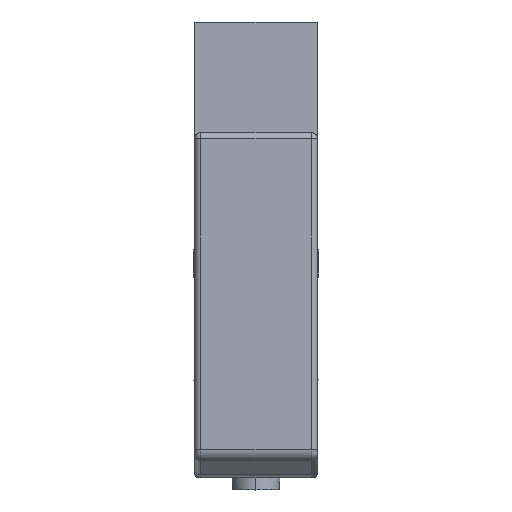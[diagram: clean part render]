
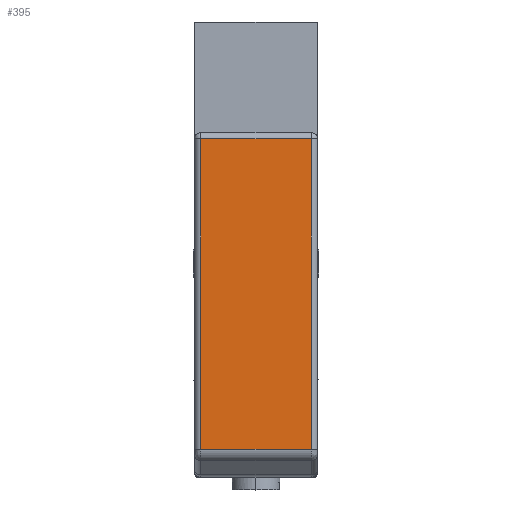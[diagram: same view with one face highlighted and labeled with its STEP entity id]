
A CAD part, top view. The second image highlights one B-rep face of the part: STEP entity #395.
In plain terms, the highlighted planar face has unit normal (0, 0, 1).
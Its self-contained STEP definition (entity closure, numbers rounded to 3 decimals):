
#395=ADVANCED_FACE('',(#1506),#1505,.F.);
#1505=PLANE('',#3410);
#1506=FACE_OUTER_BOUND('',#3411,.T.);
#3407=CARTESIAN_POINT('',(5.4,-27.283,27.4));
#3408=DIRECTION('',(0.,0.,-1.));
#3409=DIRECTION('',(-1.,0.,0.));
#3410=AXIS2_PLACEMENT_3D('',#3407,#3408,#3409);
#3411=EDGE_LOOP('',(#4714,#4715,#4716,#4717));
#4714=ORIENTED_EDGE('',*,*,#5605,.T.);
#4715=ORIENTED_EDGE('',*,*,#5569,.T.);
#4716=ORIENTED_EDGE('',*,*,#5606,.F.);
#4717=ORIENTED_EDGE('',*,*,#5590,.T.);
#5569=EDGE_CURVE('',#7408,#7421,#7428,.T.);
#5590=EDGE_CURVE('',#7539,#7559,#7566,.T.);
#5605=EDGE_CURVE('',#7559,#7408,#7661,.T.);
#5606=EDGE_CURVE('',#7539,#7421,#7667,.T.);
#7408=VERTEX_POINT('',#10531);
#7421=VERTEX_POINT('',#10540);
#7428=LINE('',#10545,#10546);
#7539=VERTEX_POINT('',#10617);
#7559=VERTEX_POINT('',#10631);
#7566=LINE('',#10636,#10637);
#7661=LINE('',#10689,#10690);
#7667=LINE('',#10692,#10693);
#10531=CARTESIAN_POINT('',(-4.5,0.5,27.4));
#10540=CARTESIAN_POINT('',(-4.5,-24.758,27.4));
#10545=CARTESIAN_POINT('',(-4.5,0.5,27.4));
#10546=VECTOR('',#10547,25.258);
#10547=DIRECTION('',(0.,-1.,0.));
#10617=CARTESIAN_POINT('',(4.5,-24.758,27.4));
#10631=CARTESIAN_POINT('',(4.5,0.5,27.4));
#10636=CARTESIAN_POINT('',(4.5,-24.758,27.4));
#10637=VECTOR('',#10638,25.258);
#10638=DIRECTION('',(0.,1.,0.));
#10689=CARTESIAN_POINT('',(4.5,0.5,27.4));
#10690=VECTOR('',#10691,9.);
#10691=DIRECTION('',(-1.,0.,0.));
#10692=CARTESIAN_POINT('',(4.5,-24.758,27.4));
#10693=VECTOR('',#10694,9.);
#10694=DIRECTION('',(-1.,0.,0.));
